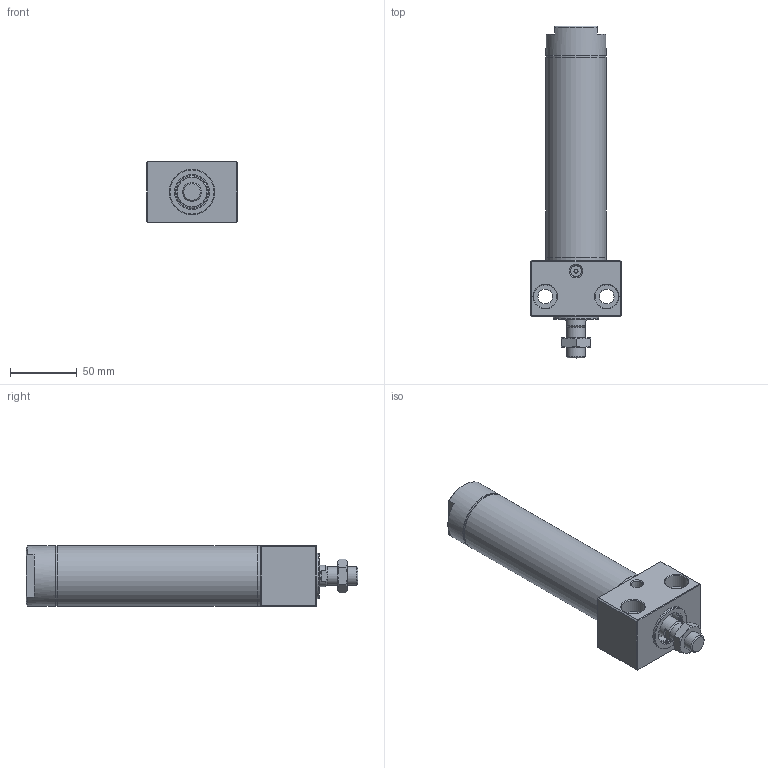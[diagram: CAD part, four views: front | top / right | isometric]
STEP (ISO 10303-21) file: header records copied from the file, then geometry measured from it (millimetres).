
FILE_DESCRIPTION((''),'2;1');
FILE_NAME('I:\3D電子目錄\氣缸\DBS\DBS\DBS40x100.stp','2007-10-08T08:49:07',('Administrator'),(''),'Autodesk Inventor 2008','Autodesk Inventor 2008','');
FILE_SCHEMA(('AUTOMOTIVE_DESIGN { 1 0 10303 214 1 1 1 1 }'));
Length unit declared in the file: millimetre
Products named in the file (1): DBS40x100
Bounding box: 68 x 248.6 x 46 mm (x, y, z)
Volume: 244733.7 mm3; surface area: 86451.1 mm2
Topology: 6 solids, 6 shells, 166 faces, 323 edges, 195 vertices
Faces by surface type: plane 74, cone 41, cylinder 35, bspline 13, torus 3
Full cylindrical faces by diameter (mm): 3 x1, 10.5 x1, 12 x1, 13 x1, 14 x2, 16 x1, 16.5 x1, 18 x1, 21 x2, 24 x3, 26 x2, 27.5 x1, 28 x2, 34 x1, 38 x2, 38.5 x2, 40 x1, 42.2 x6, 45 x4
Entity records: 3958 total; most frequent: CARTESIAN_POINT 865, DIRECTION 652, ORIENTED_EDGE 488, AXIS2_PLACEMENT_3D 287, EDGE_LOOP 280, EDGE_CURVE 244, VERTEX_POINT 188, FACE_OUTER_BOUND 166
